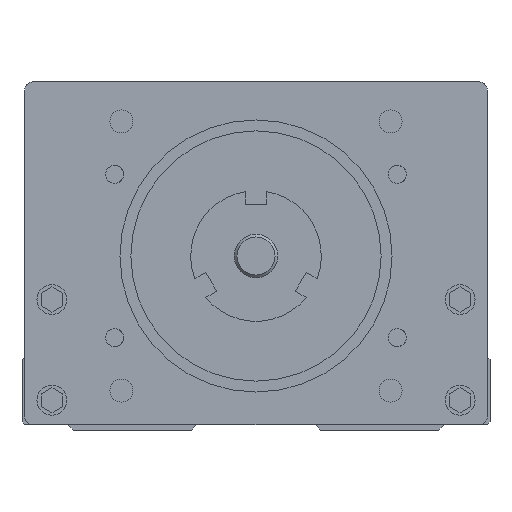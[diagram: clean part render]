
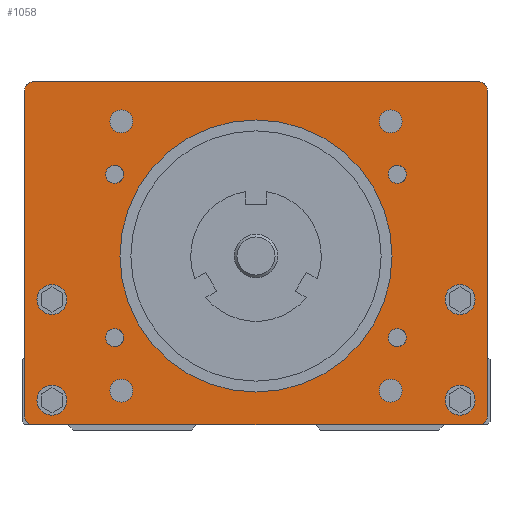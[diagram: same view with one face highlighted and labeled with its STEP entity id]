
A CAD part, front view. The second image highlights one B-rep face of the part: STEP entity #1058.
In plain terms, the highlighted planar face has unit normal (0, -1, 0).
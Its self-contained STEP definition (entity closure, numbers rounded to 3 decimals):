
#1058=ADVANCED_FACE('',(#2246,#2247,#2248,#2249,#2250,#2251,#2252,#2253,
#2254,#2255,#2256,#2257,#2258,#2259),#1563,.F.);
#1563=PLANE('',#9106);
#1896=CIRCLE('',#9078,1.5);
#1903=CIRCLE('',#9089,1.5);
#1904=CIRCLE('',#9091,1.5);
#1905=CIRCLE('',#9092,1.5);
#1906=CIRCLE('',#9093,2.75);
#1907=CIRCLE('',#9094,2.75);
#1908=CIRCLE('',#9095,2.75);
#1909=CIRCLE('',#9096,2.75);
#1910=CIRCLE('',#9097,25.);
#1911=CIRCLE('',#9098,1.65);
#1912=CIRCLE('',#9099,1.65);
#1913=CIRCLE('',#9100,1.65);
#1914=CIRCLE('',#9101,1.65);
#1915=CIRCLE('',#9102,2.1);
#1916=CIRCLE('',#9103,2.1);
#1917=CIRCLE('',#9104,2.1);
#1918=CIRCLE('',#9105,2.1);
#2246=FACE_BOUND('',#2664,.T.);
#2247=FACE_BOUND('',#2665,.T.);
#2248=FACE_BOUND('',#2666,.T.);
#2249=FACE_BOUND('',#2667,.T.);
#2250=FACE_BOUND('',#2668,.T.);
#2251=FACE_BOUND('',#2669,.T.);
#2252=FACE_BOUND('',#2670,.T.);
#2253=FACE_BOUND('',#2671,.T.);
#2254=FACE_BOUND('',#2672,.T.);
#2255=FACE_BOUND('',#2673,.T.);
#2256=FACE_BOUND('',#2674,.T.);
#2257=FACE_BOUND('',#2675,.T.);
#2258=FACE_BOUND('',#2676,.T.);
#2259=FACE_BOUND('',#2677,.T.);
#2664=EDGE_LOOP('',(#3701,#3702,#3703,#3704,#3705,#3706,#3707,#3708));
#2665=EDGE_LOOP('',(#3709));
#2666=EDGE_LOOP('',(#3710));
#2667=EDGE_LOOP('',(#3711));
#2668=EDGE_LOOP('',(#3712));
#2669=EDGE_LOOP('',(#3713));
#2670=EDGE_LOOP('',(#3714));
#2671=EDGE_LOOP('',(#3715));
#2672=EDGE_LOOP('',(#3716));
#2673=EDGE_LOOP('',(#3717));
#2674=EDGE_LOOP('',(#3718));
#2675=EDGE_LOOP('',(#3719));
#2676=EDGE_LOOP('',(#3720));
#2677=EDGE_LOOP('',(#3721));
#3701=ORIENTED_EDGE('',*,*,#6403,.T.);
#3702=ORIENTED_EDGE('',*,*,#6652,.F.);
#3703=ORIENTED_EDGE('',*,*,#6613,.T.);
#3704=ORIENTED_EDGE('',*,*,#6651,.F.);
#3705=ORIENTED_EDGE('',*,*,#6638,.T.);
#3706=ORIENTED_EDGE('',*,*,#6636,.F.);
#3707=ORIENTED_EDGE('',*,*,#6628,.T.);
#3708=ORIENTED_EDGE('',*,*,#6653,.F.);
#3709=ORIENTED_EDGE('',*,*,#6654,.F.);
#3710=ORIENTED_EDGE('',*,*,#6655,.F.);
#3711=ORIENTED_EDGE('',*,*,#6656,.F.);
#3712=ORIENTED_EDGE('',*,*,#6657,.F.);
#3713=ORIENTED_EDGE('',*,*,#6658,.F.);
#3714=ORIENTED_EDGE('',*,*,#6659,.F.);
#3715=ORIENTED_EDGE('',*,*,#6660,.F.);
#3716=ORIENTED_EDGE('',*,*,#6661,.F.);
#3717=ORIENTED_EDGE('',*,*,#6662,.F.);
#3718=ORIENTED_EDGE('',*,*,#6663,.F.);
#3719=ORIENTED_EDGE('',*,*,#6664,.F.);
#3720=ORIENTED_EDGE('',*,*,#6665,.F.);
#3721=ORIENTED_EDGE('',*,*,#6666,.F.);
#5612=VERTEX_POINT('',#12465);
#5613=VERTEX_POINT('',#12467);
#5772=VERTEX_POINT('',#12938);
#5773=VERTEX_POINT('',#12940);
#5786=VERTEX_POINT('',#12970);
#5787=VERTEX_POINT('',#12972);
#5791=VERTEX_POINT('',#12988);
#5792=VERTEX_POINT('',#12992);
#5802=VERTEX_POINT('',#13022);
#5803=VERTEX_POINT('',#13024);
#5804=VERTEX_POINT('',#13026);
#5805=VERTEX_POINT('',#13028);
#5806=VERTEX_POINT('',#13030);
#5807=VERTEX_POINT('',#13032);
#5808=VERTEX_POINT('',#13034);
#5809=VERTEX_POINT('',#13036);
#5810=VERTEX_POINT('',#13038);
#5811=VERTEX_POINT('',#13040);
#5812=VERTEX_POINT('',#13042);
#5813=VERTEX_POINT('',#13044);
#5814=VERTEX_POINT('',#13046);
#6403=EDGE_CURVE('',#5613,#5612,#7536,.T.);
#6613=EDGE_CURVE('',#5773,#5772,#7674,.T.);
#6628=EDGE_CURVE('',#5787,#5786,#7685,.T.);
#6636=EDGE_CURVE('',#5787,#5791,#1896,.T.);
#6638=EDGE_CURVE('',#5792,#5791,#7690,.T.);
#6651=EDGE_CURVE('',#5792,#5772,#1903,.T.);
#6652=EDGE_CURVE('',#5773,#5612,#1904,.T.);
#6653=EDGE_CURVE('',#5613,#5786,#1905,.T.);
#6654=EDGE_CURVE('',#5802,#5802,#1906,.T.);
#6655=EDGE_CURVE('',#5803,#5803,#1907,.T.);
#6656=EDGE_CURVE('',#5804,#5804,#1908,.T.);
#6657=EDGE_CURVE('',#5805,#5805,#1909,.T.);
#6658=EDGE_CURVE('',#5806,#5806,#1910,.T.);
#6659=EDGE_CURVE('',#5807,#5807,#1911,.T.);
#6660=EDGE_CURVE('',#5808,#5808,#1912,.T.);
#6661=EDGE_CURVE('',#5809,#5809,#1913,.T.);
#6662=EDGE_CURVE('',#5810,#5810,#1914,.T.);
#6663=EDGE_CURVE('',#5811,#5811,#1915,.T.);
#6664=EDGE_CURVE('',#5812,#5812,#1916,.T.);
#6665=EDGE_CURVE('',#5813,#5813,#1917,.T.);
#6666=EDGE_CURVE('',#5814,#5814,#1918,.T.);
#7536=LINE('',#12466,#8261);
#7674=LINE('',#12939,#8399);
#7685=LINE('',#12971,#8410);
#7690=LINE('',#12991,#8415);
#8261=VECTOR('',#9900,1.);
#8399=VECTOR('',#10236,1.);
#8410=VECTOR('',#10261,1.);
#8415=VECTOR('',#10286,1.);
#9078=AXIS2_PLACEMENT_3D('',#12987,#10281,#10282);
#9089=AXIS2_PLACEMENT_3D('',#13017,#10311,#10312);
#9091=AXIS2_PLACEMENT_3D('',#13019,#10315,#10316);
#9092=AXIS2_PLACEMENT_3D('',#13020,#10317,#10318);
#9093=AXIS2_PLACEMENT_3D('',#13021,#10319,#10320);
#9094=AXIS2_PLACEMENT_3D('',#13023,#10321,#10322);
#9095=AXIS2_PLACEMENT_3D('',#13025,#10323,#10324);
#9096=AXIS2_PLACEMENT_3D('',#13027,#10325,#10326);
#9097=AXIS2_PLACEMENT_3D('',#13029,#10327,#10328);
#9098=AXIS2_PLACEMENT_3D('',#13031,#10329,#10330);
#9099=AXIS2_PLACEMENT_3D('',#13033,#10331,#10332);
#9100=AXIS2_PLACEMENT_3D('',#13035,#10333,#10334);
#9101=AXIS2_PLACEMENT_3D('',#13037,#10335,#10336);
#9102=AXIS2_PLACEMENT_3D('',#13039,#10337,#10338);
#9103=AXIS2_PLACEMENT_3D('',#13041,#10339,#10340);
#9104=AXIS2_PLACEMENT_3D('',#13043,#10341,#10342);
#9105=AXIS2_PLACEMENT_3D('',#13045,#10343,#10344);
#9106=AXIS2_PLACEMENT_3D('',#13047,#10345,#10346);
#9900=DIRECTION('',(1.,0.,0.));
#10236=DIRECTION('',(0.,0.,1.));
#10261=DIRECTION('',(0.,0.,-1.));
#10281=DIRECTION('',(0.,1.,0.));
#10282=DIRECTION('',(-1.,0.,0.));
#10286=DIRECTION('',(-1.,0.,0.));
#10311=DIRECTION('',(0.,1.,0.));
#10312=DIRECTION('',(0.,0.,1.));
#10315=DIRECTION('',(0.,1.,0.));
#10316=DIRECTION('',(1.,0.,0.));
#10317=DIRECTION('',(0.,1.,0.));
#10318=DIRECTION('',(0.,0.,-1.));
#10319=DIRECTION('',(0.,-1.,0.));
#10320=DIRECTION('',(0.,0.,1.));
#10321=DIRECTION('',(0.,-1.,0.));
#10322=DIRECTION('',(0.,0.,1.));
#10323=DIRECTION('',(0.,-1.,0.));
#10324=DIRECTION('',(0.,0.,1.));
#10325=DIRECTION('',(0.,-1.,0.));
#10326=DIRECTION('',(0.,0.,1.));
#10327=DIRECTION('',(0.,-1.,0.));
#10328=DIRECTION('',(1.,0.,0.));
#10329=DIRECTION('',(0.,-1.,0.));
#10330=DIRECTION('',(1.,0.,0.));
#10331=DIRECTION('',(0.,-1.,0.));
#10332=DIRECTION('',(1.,0.,0.));
#10333=DIRECTION('',(0.,-1.,0.));
#10334=DIRECTION('',(1.,0.,0.));
#10335=DIRECTION('',(0.,-1.,0.));
#10336=DIRECTION('',(1.,0.,0.));
#10337=DIRECTION('',(0.,-1.,0.));
#10338=DIRECTION('',(1.,0.,0.));
#10339=DIRECTION('',(0.,-1.,0.));
#10340=DIRECTION('',(1.,0.,0.));
#10341=DIRECTION('',(0.,-1.,0.));
#10342=DIRECTION('',(1.,0.,0.));
#10343=DIRECTION('',(0.,-1.,0.));
#10344=DIRECTION('',(1.,0.,0.));
#10345=DIRECTION('',(0.,1.,0.));
#10346=DIRECTION('',(1.,0.,0.));
#12465=CARTESIAN_POINT('',(41.,50.,0.));
#12466=CARTESIAN_POINT('',(-41.,50.,0.));
#12467=CARTESIAN_POINT('',(-41.,50.,0.));
#12938=CARTESIAN_POINT('',(42.5,50.,61.5));
#12939=CARTESIAN_POINT('',(42.5,50.,1.5));
#12940=CARTESIAN_POINT('',(42.5,50.,1.5));
#12970=CARTESIAN_POINT('',(-42.5,50.,1.5));
#12971=CARTESIAN_POINT('',(-42.5,50.,61.5));
#12972=CARTESIAN_POINT('',(-42.5,50.,61.5));
#12987=CARTESIAN_POINT('',(-41.,50.,61.5));
#12988=CARTESIAN_POINT('',(-41.,50.,63.));
#12991=CARTESIAN_POINT('',(41.,50.,63.));
#12992=CARTESIAN_POINT('',(41.,50.,63.));
#13017=CARTESIAN_POINT('',(41.,50.,61.5));
#13019=CARTESIAN_POINT('',(41.,50.,1.5));
#13020=CARTESIAN_POINT('',(-41.,50.,1.5));
#13021=CARTESIAN_POINT('',(37.5,50.,4.5));
#13022=CARTESIAN_POINT('',(37.5,50.,7.25));
#13023=CARTESIAN_POINT('',(37.5,50.,23.));
#13024=CARTESIAN_POINT('',(37.5,50.,25.75));
#13025=CARTESIAN_POINT('',(-37.5,50.,23.));
#13026=CARTESIAN_POINT('',(-37.5,50.,25.75));
#13027=CARTESIAN_POINT('',(-37.5,50.,4.5));
#13028=CARTESIAN_POINT('',(-37.5,50.,7.25));
#13029=CARTESIAN_POINT('',(0.,50.,31.));
#13030=CARTESIAN_POINT('',(25.,50.,31.));
#13031=CARTESIAN_POINT('',(-25.981,50.,46.));
#13032=CARTESIAN_POINT('',(-24.331,50.,46.));
#13033=CARTESIAN_POINT('',(-25.981,50.,16.));
#13034=CARTESIAN_POINT('',(-24.331,50.,16.));
#13035=CARTESIAN_POINT('',(25.981,50.,16.));
#13036=CARTESIAN_POINT('',(27.631,50.,16.));
#13037=CARTESIAN_POINT('',(25.981,50.,46.));
#13038=CARTESIAN_POINT('',(27.631,50.,46.));
#13039=CARTESIAN_POINT('',(24.749,50.,55.749));
#13040=CARTESIAN_POINT('',(26.849,50.,55.749));
#13041=CARTESIAN_POINT('',(24.749,50.,6.251));
#13042=CARTESIAN_POINT('',(26.849,50.,6.251));
#13043=CARTESIAN_POINT('',(-24.749,50.,6.251));
#13044=CARTESIAN_POINT('',(-22.649,50.,6.251));
#13045=CARTESIAN_POINT('',(-24.749,50.,55.749));
#13046=CARTESIAN_POINT('',(-22.649,50.,55.749));
#13047=CARTESIAN_POINT('',(0.,50.,31.));
